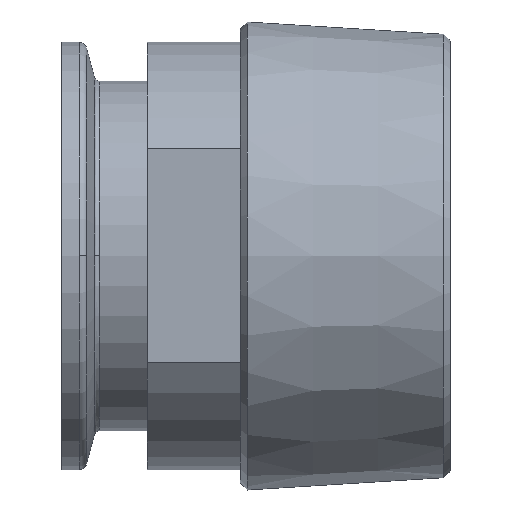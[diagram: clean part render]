
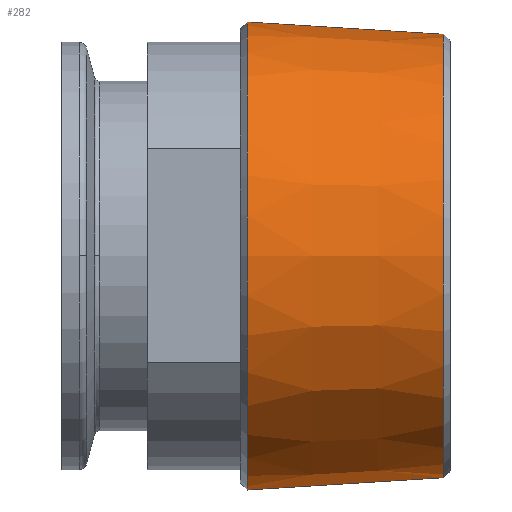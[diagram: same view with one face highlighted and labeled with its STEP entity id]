
A CAD part, top view. The second image highlights one B-rep face of the part: STEP entity #282.
In plain terms, the highlighted conical face has half-angle 3.576 degrees and reference radius 29.326 mm.
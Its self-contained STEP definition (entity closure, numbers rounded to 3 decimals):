
#214=CARTESIAN_POINT('',(49.12,28.538,0.0));
#215=VERTEX_POINT('',#214);
#224=CARTESIAN_POINT('',(49.12,-28.538,0.));
#225=VERTEX_POINT('',#224);
#226=CARTESIAN_POINT('',(49.12,0.0,0.0));
#227=DIRECTION('',(1.0,0.0,0.0));
#228=DIRECTION('',(0.0,1.0,0.0));
#229=AXIS2_PLACEMENT_3D('',#226,#227,#228);
#230=CIRCLE('',#229,28.538);
#231=EDGE_CURVE('',#215,#225,#230,.T.);
#251=CARTESIAN_POINT('',(36.5,0.0,0.0));
#252=DIRECTION('',(-1.0,0.0,0.0));
#253=DIRECTION('',(0.0,1.0,0.0));
#254=AXIS2_PLACEMENT_3D('',#251,#252,#253);
#255=CONICAL_SURFACE('',#254,29.326,3.576);
#256=CARTESIAN_POINT('',(23.88,30.115,0.0));
#257=VERTEX_POINT('',#256);
#258=CARTESIAN_POINT('',(23.88,30.115,0.0));
#259=DIRECTION('',(0.998,-0.062,0.0));
#260=VECTOR('',#259,25.289);
#261=LINE('',#258,#260);
#262=EDGE_CURVE('',#257,#215,#261,.T.);
#263=ORIENTED_EDGE('',*,*,#262,.F.);
#264=CARTESIAN_POINT('',(23.88,-30.115,0.));
#265=VERTEX_POINT('',#264);
#266=CARTESIAN_POINT('',(23.88,0.0,0.0));
#267=DIRECTION('',(1.0,0.0,0.0));
#268=DIRECTION('',(0.0,1.0,0.0));
#269=AXIS2_PLACEMENT_3D('',#266,#267,#268);
#270=CIRCLE('',#269,30.115);
#271=EDGE_CURVE('',#257,#265,#270,.T.);
#272=ORIENTED_EDGE('',*,*,#271,.T.);
#273=CARTESIAN_POINT('',(49.12,-28.538,0.));
#274=DIRECTION('',(-0.998,-0.062,0.));
#275=VECTOR('',#274,25.289);
#276=LINE('',#273,#275);
#277=EDGE_CURVE('',#225,#265,#276,.T.);
#278=ORIENTED_EDGE('',*,*,#277,.F.);
#279=ORIENTED_EDGE('',*,*,#231,.F.);
#280=EDGE_LOOP('',(#263,#272,#278,#279));
#281=FACE_OUTER_BOUND('',#280,.T.);
#282=ADVANCED_FACE('',(#281),#255,.T.);
